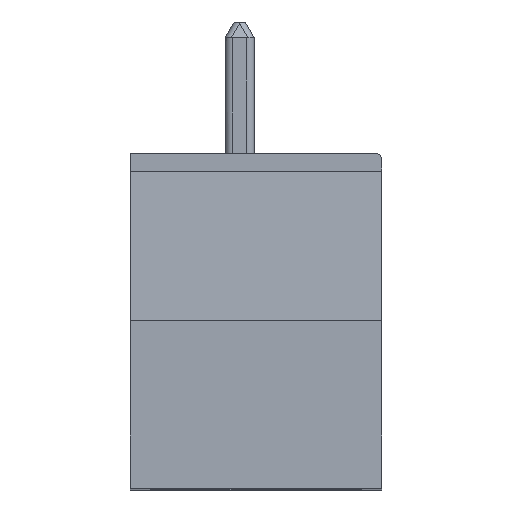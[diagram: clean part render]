
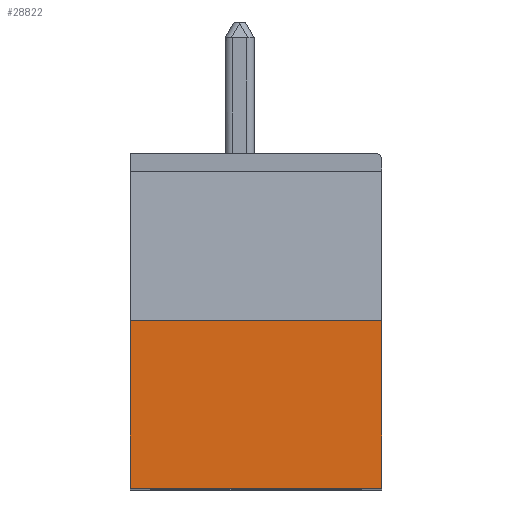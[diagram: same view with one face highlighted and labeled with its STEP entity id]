
A CAD part, top view. The second image highlights one B-rep face of the part: STEP entity #28822.
In plain terms, the highlighted planar face has unit normal (0, 0, 1).
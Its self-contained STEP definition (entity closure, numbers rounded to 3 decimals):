
#20778 = CARTESIAN_POINT ( 'NONE',  ( 0., -5.383, 0. ) ) ;
#20785 = CARTESIAN_POINT ( 'NONE',  ( 6.9, -5.383, 0. ) ) ;
#20863 = DIRECTION ( 'NONE',  ( -1., 0., 0. ) ) ;
#20864 = VECTOR ( 'NONE', #20863, 1000. ) ;
#20865 = CARTESIAN_POINT ( 'NONE',  ( 3.45, -5.383, 0. ) ) ;
#20870 = LINE ( 'NONE', #20865, #20864 ) ;
#21084 = DIRECTION ( 'NONE',  ( 0., -1., 0. ) ) ;
#21085 = VECTOR ( 'NONE', #21084, 1000. ) ;
#21086 = CARTESIAN_POINT ( 'NONE',  ( 0., -7.683, 0. ) ) ;
#21087 = LINE ( 'NONE', #21086, #21085 ) ;
#21111 = DIRECTION ( 'NONE',  ( -1., 0., 0. ) ) ;
#21112 = VECTOR ( 'NONE', #21111, 1000. ) ;
#21113 = CARTESIAN_POINT ( 'NONE',  ( 0., -9.983, 0. ) ) ;
#21118 = LINE ( 'NONE', #21113, #21112 ) ;
#21131 = CARTESIAN_POINT ( 'NONE',  ( 0., -9.983, 0. ) ) ;
#21161 = CARTESIAN_POINT ( 'NONE',  ( 6.9, -9.983, 0. ) ) ;
#21162 = DIRECTION ( 'NONE',  ( 0., 1., 0. ) ) ;
#21163 = VECTOR ( 'NONE', #21162, 1000. ) ;
#21164 = CARTESIAN_POINT ( 'NONE',  ( 6.9, -7.683, 0. ) ) ;
#21165 = LINE ( 'NONE', #21164, #21163 ) ;
#21201 = DIRECTION ( 'NONE',  ( 0., -1., 0. ) ) ;
#21202 = DIRECTION ( 'NONE',  ( 0., 0., 1. ) ) ;
#21203 = CARTESIAN_POINT ( 'NONE',  ( 0., -5.383, 0. ) ) ;
#21204 = AXIS2_PLACEMENT_3D ( 'NONE', #21203, #21202, #21201 ) ;
#21205 = PLANE ( 'NONE',  #21204 ) ;
#21206 = FACE_OUTER_BOUND ( 'NONE', #28823, .T. ) ;
#28415 = VERTEX_POINT ( 'NONE', #20785 ) ;
#28419 = VERTEX_POINT ( 'NONE', #20778 ) ;
#28475 = EDGE_CURVE ( 'NONE', #28415, #28419, #20870, .T. ) ;
#28669 = EDGE_CURVE ( 'NONE', #28419, #28689, #21087, .T. ) ;
#28689 = VERTEX_POINT ( 'NONE', #21131 ) ;
#28737 = ORIENTED_EDGE ( 'NONE', *, *, #28747, .T. ) ;
#28738 = ORIENTED_EDGE ( 'NONE', *, *, #28475, .T. ) ;
#28739 = ORIENTED_EDGE ( 'NONE', *, *, #28669, .T. ) ;
#28740 = ORIENTED_EDGE ( 'NONE', *, *, #28741, .F. ) ;
#28741 = EDGE_CURVE ( 'NONE', #28748, #28689, #21118, .T. ) ;
#28747 = EDGE_CURVE ( 'NONE', #28748, #28415, #21165, .T. ) ;
#28748 = VERTEX_POINT ( 'NONE', #21161 ) ;
#28822 = ADVANCED_FACE ( 'NONE', ( #21206 ), #21205, .T. ) ;
#28823 = EDGE_LOOP ( 'NONE', ( #28737, #28738, #28739, #28740 ) ) ;
